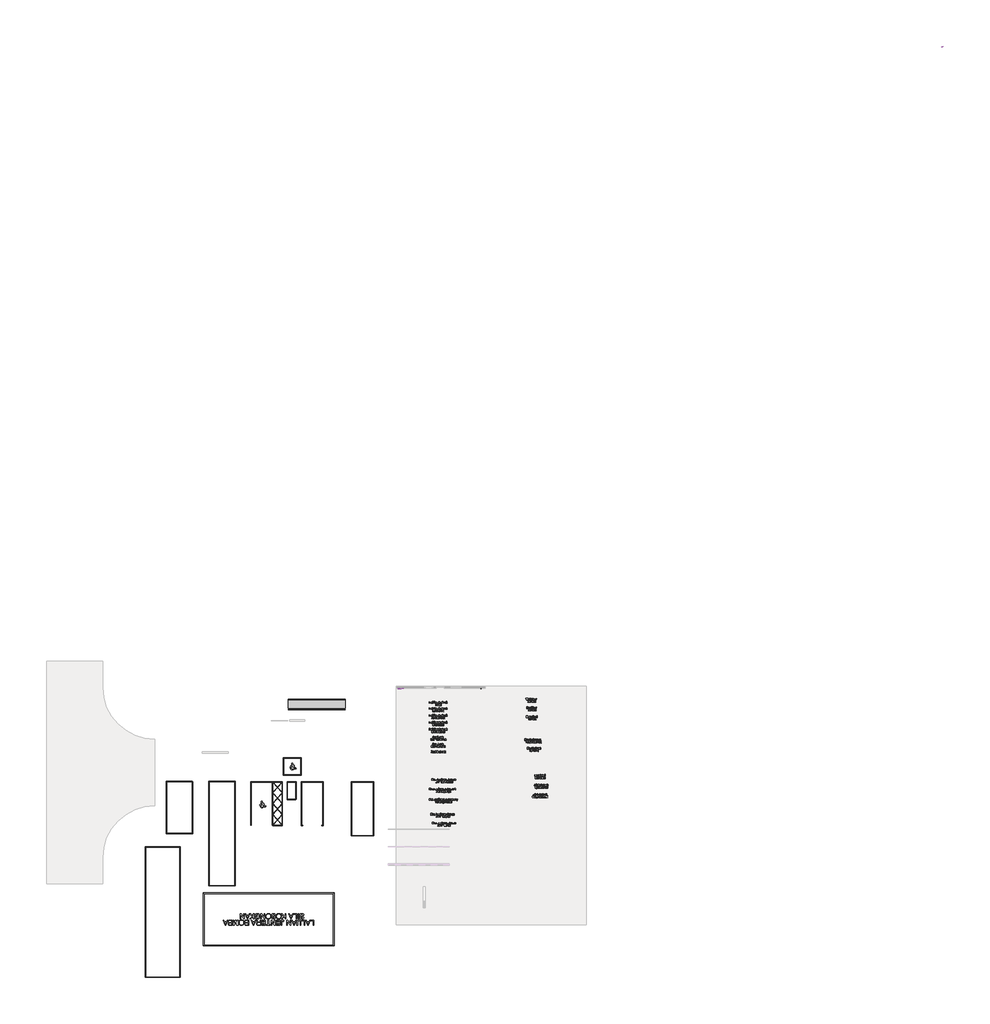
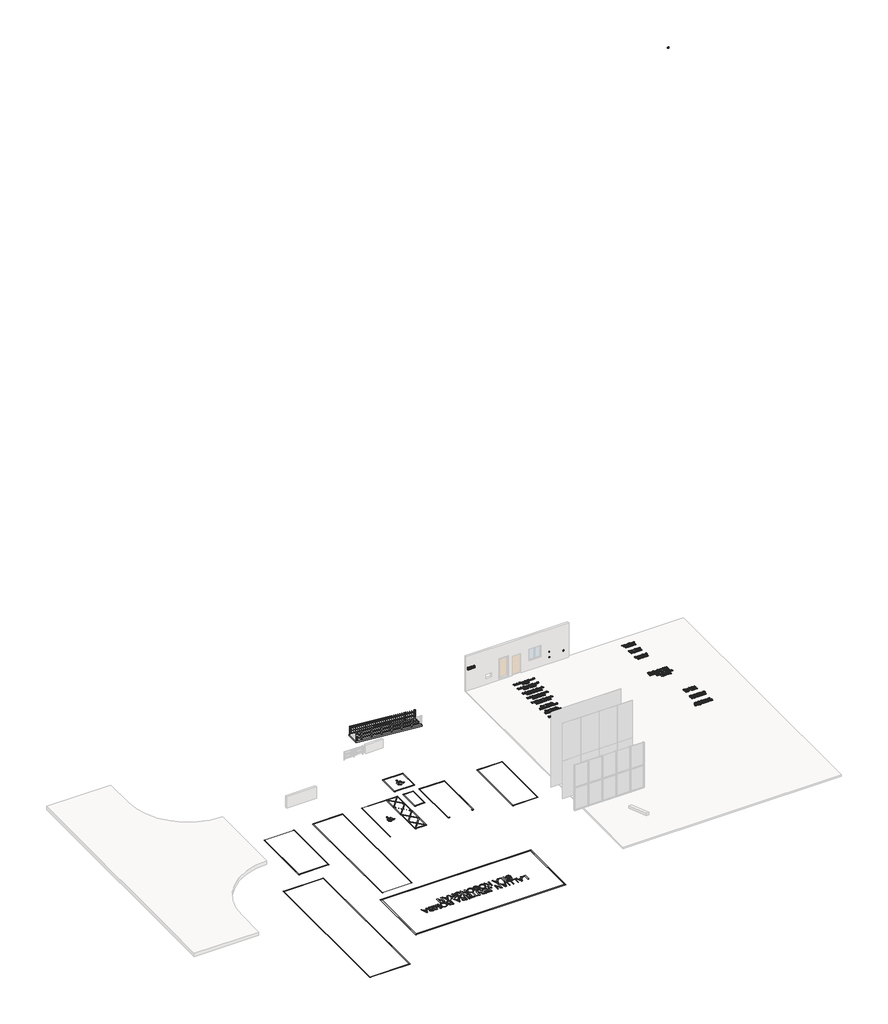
# One storey, part 3 of 3: 30 proxies, 3 alarms, 1 light fixture, 1 railing, 1 ramp.
"""IFC4 building model written with IfcOpenShell, lengths in millimetres."""

from ifc_helpers import new_model, si_unit, frame, origin, place, context, project, spatial, ellipse_curve, transform, mapped, element, save
from ifc_brep_helpers import plane_surface, cylinder_surface, advanced_brep
from components import break_glass_and_fire_alarm_bell_type_1_92468b06, fire_alarm_bell_diameter_150_d7b28a5b, pull_station_manual_84165f4a, generic_models_6ec18312, generic_models_11812b9f, generic_models_76fe117e, generic_models_7050a683, generic_models_4d7ac0fc, parking_627ed973, generic_models_9ae01eea, generic_models_8ed49101, generic_models_a3a4bf36, generic_models_a72e6efc, generic_models_cca2efae, generic_models_6b0d4a80, generic_models_324ab79a, generic_models_37252d37, proxy_6000_x_15000mm_90_deg_22f1d21b, bus_park_space_eeb452dd, car_park_space_parallel_parallel_pjc_2500x6200_3ebe62c2, car_park_space_oku_3797e2ba, large_4000x15000_39c9a88d, marker_dry_riser_distance_dry_riser_line_da1380dd, marker_fire_appliance_access_road_length_faa_length_line_315c61b4, marker_fire_appliance_access_road_width_faa_width_line_8debdb87, marker_fire_appliance_access_turning_radius_faa_turning_acc526ec, marker_fire_appliance_access_to_building_edge_faa_to_9c28d8f7, marker_fire_hydrant_spacing_5b3d75b8, marker_hose_reel_distance_hose_reel_line_1106418b, marker_wet_riser_distance_wet_riser_line_4951238f, motor_park_space_motor_1000x2000_5e893e73, motor_park_space_oku_motor_2000x2000_8156fa24, parallel_2500x5000_aad23695, light_fixture_4e43e032, oku1_d2eb89d1

model = new_model("IFC4")

# Units and contexts
model_context = context("Model", 3, world=origin())
ifc_project = project(units=[si_unit("LENGTHUNIT", "METRE", prefix="MILLI")], contexts=[model_context])

# Site, building, storey
site = spatial("IfcSite", under=ifc_project)
building = spatial("IfcBuilding", under=site)
storey = spatial("IfcBuildingStorey", under=building, Name="00-NBeS SITE/FIRE APPLIANCE ACCESS LEVEL", Elevation=-300.0)

# Alarms
placement = place(None, origin())
break_glass_and_fire_alarm_bell_type_1_shape = break_glass_and_fire_alarm_bell_type_1_92468b06(model_context)
element("IfcAlarm", 1, ObjectType="Break Glass and Fire Alarm Bell : Type 1", at=placement, inside=storey, context=model_context, shape_type="MappedRepresentation", body=[
    mapped(break_glass_and_fire_alarm_bell_type_1_shape, transform((-64013.385919, -10525.881401, -1078.4055332), x_axis=(-1.0, 0.0, 0.0), y_axis=(0.0, -1.0, 0.0), z_axis=(0.0, 0.0, 1.0))),
])
fire_alarm_bell_diameter_150_shape = fire_alarm_bell_diameter_150_d7b28a5b(model_context)
element("IfcAlarm", 2, ObjectType="Fire Alarm Bell : Diameter 150", at=placement, inside=storey, context=model_context, shape_type="MappedRepresentation", body=[
    mapped(fire_alarm_bell_diameter_150_shape, transform((-9520.4104892, 63304.171997, 1056.6659449), x_axis=(1.0, 0.0, 0.0), y_axis=(0.0, 0.0, 1.0), z_axis=(0.0, -1.0, 0.0))),
])
pull_station_manual_shape = pull_station_manual_84165f4a(model_context)
element("IfcAlarm", 3, ObjectType="Pull Station Manual : Addressable SPST", at=placement, inside=storey, context=model_context, shape_type="MappedRepresentation", body=[
    mapped(pull_station_manual_shape, transform((-62719.660919, -10625.881401, 624.3414459), x_axis=(1.0, 0.0, 0.0), y_axis=(0.0, 0.0, 1.0), z_axis=(0.0, -1.0, 0.0))),
])

# Proxies
generic_models_shape = generic_models_6ec18312(model_context)
element("IfcBuildingElementProxy", 4, Name="Marker-Dead End Exit Limit : Dead End Exit Limit Line", ObjectType="Marker-Dead End Exit Limit : Dead End Exit Limit Line", at=placement, inside=storey, context=model_context, shape_type="MappedRepresentation", body=[
    mapped(generic_models_shape, transform((-60441.1150746, -20830.1920685, 300.0), x_axis=(1.0, 0.0, 0.0), y_axis=(0.0, 1.0, 0.0), z_axis=(0.0, 0.0, 1.0))),
])
generic_models_2_shape = generic_models_11812b9f(model_context)
element("IfcBuildingElementProxy", 5, Name="Marker-Alt Exit Limit Sprinklered : Alt Exit Limit Sprinklered Line", ObjectType="Marker-Alt Exit Limit Sprinklered : Alt Exit Limit Sprinklered Line", at=placement, inside=storey, context=model_context, shape_type="MappedRepresentation", body=[
    mapped(generic_models_2_shape, transform((-60341.1150746, -21930.1920685, 300.0), x_axis=(1.0, 0.0, 0.0), y_axis=(0.0, 1.0, 0.0), z_axis=(0.0, 0.0, 1.0))),
])
generic_models_3_shape = generic_models_76fe117e(model_context)
element("IfcBuildingElementProxy", 6, Name="Marker-Alt Exit Limit Unsprinklered : Alt Exit Limit Unsprinklered Line", ObjectType="Marker-Alt Exit Limit Unsprinklered : Alt Exit Limit Unsprinklered Line", at=placement, inside=storey, context=model_context, shape_type="MappedRepresentation", body=[
    mapped(generic_models_3_shape, transform((-60441.1150746, -23030.1920685, 300.0), x_axis=(1.0, 0.0, 0.0), y_axis=(0.0, 1.0, 0.0), z_axis=(0.0, 0.0, 1.0))),
])
generic_models_4_shape = generic_models_7050a683(model_context)
element("IfcBuildingElementProxy", 7, Name="Marker-Fire Appliance Access Dead End : FAA Dead End Line", ObjectType="Marker-Fire Appliance Access Dead End : FAA Dead End Line", at=placement, inside=storey, context=model_context, shape_type="MappedRepresentation", body=[
    mapped(generic_models_4_shape, transform((-71292.9065262, -21313.5112618, 0.0), x_axis=(1.0, 0.0, 0.0), y_axis=(0.0, 1.0, 0.0), z_axis=(0.0, 0.0, 1.0))),
])
generic_models_5_shape = generic_models_4d7ac0fc(model_context)
element("IfcBuildingElementProxy", 8, Name="Marker-Fire Hydrant to Breeching Inlet : Fire Hydrant to Breeching Inlet", ObjectType="Marker-Fire Hydrant to Breeching Inlet : Fire Hydrant to Breeching Inlet", at=placement, inside=storey, context=model_context, shape_type="MappedRepresentation", body=[
    mapped(generic_models_5_shape, transform((-61110.2715973, -16713.5112618, 0.0), x_axis=(1.0, 0.0, 0.0), y_axis=(0.0, 1.0, 0.0), z_axis=(0.0, 0.0, 1.0))),
])
parking_shape = parking_627ed973(model_context)
element("IfcBuildingElementProxy", 9, Name="Lorry_Park_Space-Small : Smal 3000x6000", ObjectType="Lorry_Park_Space-Small : Smal 3000x6000", at=placement, inside=storey, context=model_context, shape_type="MappedRepresentation", body=[
    mapped(parking_shape, transform((-98940.1676817, -21395.0709799, -300.0), x_axis=(1.0, 0.0, 0.0), y_axis=(0.0, 1.0, 0.0), z_axis=(0.0, 0.0, 1.0))),
])
generic_models_6_shape = generic_models_9ae01eea(model_context)
element("IfcBuildingElementProxy", 10, Name="Marker-Setback Bldg Distance : Setback-Building-Front", ObjectType="Marker-Setback Bldg Distance : Setback-Building-Front", at=placement, inside=storey, context=model_context, shape_type="MappedRepresentation", body=[
    mapped(generic_models_6_shape, transform((-71466.2123858, -12425.881401, 0.0), x_axis=(1.0, 0.0, 0.0), y_axis=(0.0, 1.0, 0.0), z_axis=(0.0, 0.0, 1.0))),
])
generic_models_7_shape = generic_models_8ed49101(model_context)
element("IfcBuildingElementProxy", 11, Name="Marker-Setback Bldg Distance : Setback-Building-Rear Road", ObjectType="Marker-Setback Bldg Distance : Setback-Building-Rear Road", at=placement, inside=storey, context=model_context, shape_type="MappedRepresentation", body=[
    mapped(generic_models_7_shape, transform((-71466.2123858, -13125.881401, 0.0), x_axis=(1.0, 0.0, 0.0), y_axis=(0.0, 1.0, 0.0), z_axis=(0.0, 0.0, 1.0))),
])
generic_models_8_shape = generic_models_a3a4bf36(model_context)
element("IfcBuildingElementProxy", 12, Name="Marker-Setback Bldg Distance : Setback-Building-Rear Shared", ObjectType="Marker-Setback Bldg Distance : Setback-Building-Rear Shared", at=placement, inside=storey, context=model_context, shape_type="MappedRepresentation", body=[
    mapped(generic_models_8_shape, transform((-71466.2123858, -13925.881401, 0.0), x_axis=(1.0, 0.0, 0.0), y_axis=(0.0, 1.0, 0.0), z_axis=(0.0, 0.0, 1.0))),
])
generic_models_9_shape = generic_models_a72e6efc(model_context)
element("IfcBuildingElementProxy", 13, Name="Marker-Setback Bldg Distance : Setback-Building-Side Road", ObjectType="Marker-Setback Bldg Distance : Setback-Building-Side Road", at=placement, inside=storey, context=model_context, shape_type="MappedRepresentation", body=[
    mapped(generic_models_9_shape, transform((-71466.2123858, -14725.881401, 0.0), x_axis=(1.0, 0.0, 0.0), y_axis=(0.0, 1.0, 0.0), z_axis=(0.0, 0.0, 1.0))),
])
generic_models_10_shape = generic_models_cca2efae(model_context)
element("IfcBuildingElementProxy", 14, Name="Marker-Setback Bldg Distance : Setback-Car Porch-Front", ObjectType="Marker-Setback Bldg Distance : Setback-Car Porch-Front", at=placement, inside=storey, context=model_context, shape_type="MappedRepresentation", body=[
    mapped(generic_models_10_shape, transform((-71466.2123858, -16425.881401, 0.0), x_axis=(1.0, 0.0, 0.0), y_axis=(0.0, 1.0, 0.0), z_axis=(0.0, 0.0, 1.0))),
])
generic_models_11_shape = generic_models_6b0d4a80(model_context)
element("IfcBuildingElementProxy", 15, Name="Marker-Setback Bldg Distance : Setback-Car Porch-Side", ObjectType="Marker-Setback Bldg Distance : Setback-Car Porch-Side", at=placement, inside=storey, context=model_context, shape_type="MappedRepresentation", body=[
    mapped(generic_models_11_shape, transform((-71466.2123858, -17215.3933085, 0.0), x_axis=(1.0, 0.0, 0.0), y_axis=(0.0, 1.0, 0.0), z_axis=(0.0, 0.0, 1.0))),
])
generic_models_12_shape = generic_models_324ab79a(model_context)
element("IfcBuildingElementProxy", 16, Name="Marker-Setback Bldg Distance : Setback-Roof", ObjectType="Marker-Setback Bldg Distance : Setback-Roof", at=placement, inside=storey, context=model_context, shape_type="MappedRepresentation", body=[
    mapped(generic_models_12_shape, transform((-71466.2123858, -18104.905216, 0.0), x_axis=(1.0, 0.0, 0.0), y_axis=(0.0, 1.0, 0.0), z_axis=(0.0, 0.0, 1.0))),
])
generic_models_13_shape = generic_models_37252d37(model_context)
element("IfcBuildingElementProxy", 17, Name="Marker-Setback Bldg Distance : Setback-Building-Side Shared", ObjectType="Marker-Setback Bldg Distance : Setback-Building-Side Shared", at=placement, inside=storey, context=model_context, shape_type="MappedRepresentation", body=[
    mapped(generic_models_13_shape, transform((-71466.2123858, -15525.881401, 0.0), x_axis=(1.0, 0.0, 0.0), y_axis=(0.0, 1.0, 0.0), z_axis=(0.0, 0.0, 1.0))),
])
proxy_6000_x_15000mm_90_deg_shape = proxy_6000_x_15000mm_90_deg_22f1d21b(model_context)
element("IfcBuildingElementProxy", 18, Name="FAPS-Perpendicular : 6000 x 15000mm - 90 deg", ObjectType="FAPS-Perpendicular : 6000 x 15000mm - 90 deg", at=placement, inside=storey, context=model_context, shape_type="MappedRepresentation", body=[
    mapped(proxy_6000_x_15000mm_90_deg_shape, transform((-94657.3359767, -40282.2467088, -300.0), x_axis=(0.0, 1.0, 0.0), y_axis=(-1.0, 0.0, 0.0), z_axis=(0.0, 0.0, 1.0))),
])
bus_park_space_shape = bus_park_space_eeb452dd(model_context)
element("IfcBuildingElementProxy", 19, Name="Bus_Park_Space : Perpendicular 3000x12000", ObjectType="Bus_Park_Space : Perpendicular 3000x12000", at=placement, inside=storey, context=model_context, shape_type="MappedRepresentation", body=[
    mapped(bus_park_space_shape, transform((-94040.1676817, -21395.0709799, -300.0), x_axis=(1.0, 0.0, 0.0), y_axis=(0.0, 1.0, 0.0), z_axis=(0.0, 0.0, 1.0))),
])
car_park_space_parallel_parallel_pjc_2500x6200_shape = car_park_space_parallel_parallel_pjc_2500x6200_3ebe62c2(model_context)
element("IfcBuildingElementProxy", 20, Name="Car_Park_Space-Parallel : Parallel-PJC 2500X6200", ObjectType="Car_Park_Space-Parallel : Parallel-PJC 2500X6200", at=placement, inside=storey, context=model_context, shape_type="MappedRepresentation", body=[
    mapped(car_park_space_parallel_parallel_pjc_2500x6200_shape, transform((-77598.7330057, -21436.5011342, -300.0), x_axis=(1.0, 0.0, 0.0), y_axis=(0.0, 1.0, 0.0), z_axis=(0.0, 0.0, 1.0))),
])
car_park_space_oku_shape = car_park_space_oku_3797e2ba(model_context)
element("IfcBuildingElementProxy", 21, Name="Car_Park_Space_OKU : OKU-PJC 3600X5000", ObjectType="Car_Park_Space_OKU : OKU-PJC 3600X5000", at=placement, inside=storey, context=model_context, shape_type="MappedRepresentation", body=[
    mapped(car_park_space_oku_shape, transform((-89198.513091, -21436.5011342, -300.0), x_axis=(1.0, 0.0, 0.0), y_axis=(0.0, 1.0, 0.0), z_axis=(0.0, 0.0, 1.0))),
])
large_4000x15000_shape = large_4000x15000_39c9a88d(model_context)
element("IfcBuildingElementProxy", 22, Name="Lorry_Park_Space-Large : Large 4000x15000", ObjectType="Lorry_Park_Space-Large : Large 4000x15000", at=placement, inside=storey, context=model_context, shape_type="MappedRepresentation", body=[
    mapped(large_4000x15000_shape, transform((-101360.4100195, -28940.7856296, -300.0), x_axis=(1.0, 0.0, 0.0), y_axis=(0.0, 1.0, 0.0), z_axis=(0.0, 0.0, 1.0))),
])
marker_dry_riser_distance_dry_riser_line_shape = marker_dry_riser_distance_dry_riser_line_da1380dd(model_context)
element("IfcBuildingElementProxy", 23, Name="Marker-Dry Riser Distance : Dry Riser Line", ObjectType="Marker-Dry Riser Distance : Dry Riser Line", at=placement, inside=storey, context=model_context, shape_type="MappedRepresentation", body=[
    mapped(marker_dry_riser_distance_dry_riser_line_shape, transform((-60766.2123858, -13025.881401, 0.0), x_axis=(1.0, 0.0, 0.0), y_axis=(0.0, 1.0, 0.0), z_axis=(0.0, 0.0, 1.0))),
])
marker_fire_appliance_access_road_length_faa_length_line_shape = marker_fire_appliance_access_road_length_faa_length_line_315c61b4(model_context)
element("IfcBuildingElementProxy", 24, Name="Marker-Fire Appliance Access Road Length : FAA Length Line", ObjectType="Marker-Fire Appliance Access Road Length : FAA Length Line", at=placement, inside=storey, context=model_context, shape_type="MappedRepresentation", body=[
    mapped(marker_fire_appliance_access_road_length_faa_length_line_shape, transform((-71431.8139639, -25287.0744774, 0.0), x_axis=(1.0, 0.0, 0.0), y_axis=(0.0, 1.0, 0.0), z_axis=(0.0, 0.0, 1.0))),
])
marker_fire_appliance_access_road_width_faa_width_line_shape = marker_fire_appliance_access_road_width_faa_width_line_8debdb87(model_context)
element("IfcBuildingElementProxy", 25, Name="Marker-Fire Appliance Access Road Width : FAA Width Line", ObjectType="Marker-Fire Appliance Access Road Width : FAA Width Line", at=placement, inside=storey, context=model_context, shape_type="MappedRepresentation", body=[
    mapped(marker_fire_appliance_access_road_width_faa_width_line_shape, transform((-71350.4520355, -26304.0179042, 0.0), x_axis=(1.0, 0.0, 0.0), y_axis=(0.0, 1.0, 0.0), z_axis=(0.0, 0.0, 1.0))),
])
marker_fire_appliance_access_turning_radius_faa_turning_shape = marker_fire_appliance_access_turning_radius_faa_turning_acc526ec(model_context)
element("IfcBuildingElementProxy", 26, Name="Marker-Fire Appliance Access Turning Radius : FAA Turning Radius Line", ObjectType="Marker-Fire Appliance Access Turning Radius : FAA Turning Radius Line", at=placement, inside=storey, context=model_context, shape_type="MappedRepresentation", body=[
    mapped(marker_fire_appliance_access_turning_radius_faa_turning_shape, transform((-71466.3530013, -23587.0744774, 0.0), x_axis=(1.0, 0.0, 0.0), y_axis=(0.0, 1.0, 0.0), z_axis=(0.0, 0.0, 1.0))),
])
marker_fire_appliance_access_to_building_edge_faa_to_shape = marker_fire_appliance_access_to_building_edge_faa_to_9c28d8f7(model_context)
element("IfcBuildingElementProxy", 27, Name="Marker-Fire Appliance Access to Building Edge : FAA to Building Edge Line", ObjectType="Marker-Fire Appliance Access to Building Edge : FAA to Building Edge Line", at=placement, inside=storey, context=model_context, shape_type="MappedRepresentation", body=[
    mapped(marker_fire_appliance_access_to_building_edge_faa_to_shape, transform((-71431.8139639, -22393.6550722, 0.0), x_axis=(1.0, 0.0, 0.0), y_axis=(0.0, 1.0, 0.0), z_axis=(0.0, 0.0, 1.0))),
])
marker_fire_hydrant_spacing_shape = marker_fire_hydrant_spacing_5b3d75b8(model_context)
element("IfcBuildingElementProxy", 28, Name="Marker-Fire Hydrant Spacing : FIre Hydrant Line", ObjectType="Marker-Fire Hydrant Spacing : FIre Hydrant Line", at=placement, inside=storey, context=model_context, shape_type="MappedRepresentation", body=[
    mapped(marker_fire_hydrant_spacing_shape, transform((-61036.9121639, -17699.0839242, 300.0), x_axis=(1.0, 0.0, 0.0), y_axis=(0.0, 1.0, 0.0), z_axis=(0.0, 0.0, 1.0))),
])
marker_hose_reel_distance_hose_reel_line_shape = marker_hose_reel_distance_hose_reel_line_1106418b(model_context)
element("IfcBuildingElementProxy", 29, Name="Marker-Hose Reel Distance : Hose Reel Line", ObjectType="Marker-Hose Reel Distance : Hose Reel Line", at=placement, inside=storey, context=model_context, shape_type="MappedRepresentation", body=[
    mapped(marker_hose_reel_distance_hose_reel_line_shape, transform((-60790.72015, -14065.881401, 0.0), x_axis=(1.0, 0.0, 0.0), y_axis=(0.0, 1.0, 0.0), z_axis=(0.0, 0.0, 1.0))),
])
marker_wet_riser_distance_wet_riser_line_shape = marker_wet_riser_distance_wet_riser_line_4951238f(model_context)
element("IfcBuildingElementProxy", 30, Name="Marker-Wet Riser Distance : Wet Riser Line", ObjectType="Marker-Wet Riser Distance : Wet Riser Line", at=placement, inside=storey, context=model_context, shape_type="MappedRepresentation", body=[
    mapped(marker_wet_riser_distance_wet_riser_line_shape, transform((-60766.2123858, -12025.881401, 0.0), x_axis=(1.0, 0.0, 0.0), y_axis=(0.0, 1.0, 0.0), z_axis=(0.0, 0.0, 1.0))),
])
motor_park_space_motor_1000x2000_shape = motor_park_space_motor_1000x2000_5e893e73(model_context)
element("IfcBuildingElementProxy", 31, Name="Motor_Park_Space : Motor 1000X2000", ObjectType="Motor_Park_Space : Motor 1000X2000", at=placement, inside=storey, context=model_context, shape_type="MappedRepresentation", body=[
    mapped(motor_park_space_motor_1000x2000_shape, transform((-84023.544608, -21436.5011342, -300.0), x_axis=(-1.0, 0.0, 0.0), y_axis=(0.0, -1.0, 0.0), z_axis=(0.0, 0.0, 1.0))),
])
motor_park_space_oku_motor_2000x2000_shape = motor_park_space_oku_motor_2000x2000_8156fa24(model_context)
element("IfcBuildingElementProxy", 32, Name="Motor_Park_Space-OKU : Motor 2000X2000", ObjectType="Motor_Park_Space-OKU : Motor 2000X2000", at=placement, inside=storey, context=model_context, shape_type="MappedRepresentation", body=[
    mapped(motor_park_space_oku_motor_2000x2000_shape, transform((-85460.4100195, -18658.0387513, -300.0), x_axis=(1.0, 0.0, 0.0), y_axis=(0.0, 1.0, 0.0), z_axis=(0.0, 0.0, 1.0))),
])
parallel_2500x5000_shape = parallel_2500x5000_aad23695(model_context)
element("IfcBuildingElementProxy", 33, Name="Car_Park_Space-Perpendicular : Parallel 2500X5000", ObjectType="Car_Park_Space-Perpendicular : Parallel 2500X5000", at=placement, inside=storey, context=model_context, shape_type="MappedRepresentation", body=[
    mapped(parallel_2500x5000_shape, transform((-83398.7330057, -21440.7856296, -300.0), x_axis=(1.0, 0.0, 0.0), y_axis=(0.0, 1.0, 0.0), z_axis=(0.0, 0.0, 1.0))),
])

# Light fixture
light_fixture_shape = light_fixture_4e43e032(model_context)
element("IfcLightFixture", 34, ObjectType="Keluar Sign LED : Keluar Sign LED", at=placement, inside=storey, context=model_context, shape_type="MappedRepresentation", body=[
    mapped(light_fixture_shape, transform((-71853.385919, -10525.881401, -262.5), x_axis=(-1.0, 0.0, 0.0), y_axis=(0.0, -1.0, 0.0), z_axis=(0.0, 0.0, 1.0))),
])

# Railing
element("IfcRailing", 35, ObjectType="900mm Pipe", at=placement, inside=storey, context=model_context, shape_type="AdvancedBrep", body=[
    advanced_brep(
    [(-78318.4618294, -11920.679374, 579.9306757), (-78318.4618294, -11960.679374, 579.9306757), (-84918.4618294, -11920.679374, 1129.9306757), (-84918.4618294, -11960.679374, 1129.9306757)],
    [
        (0, 1, ellipse_curve(frame((-78318.4618294, -11940.679374, 579.9306757), z_axis=(1.0, 0.0, 0.0), x_axis=(0.0, 0.0, -1.0)), 20.0693243, 20.0)),
        (1, 0, ellipse_curve(frame((-78318.4618294, -11940.679374, 579.9306757), z_axis=(1.0, 0.0, 0.0), x_axis=(0.0, 0.0, -1.0)), 20.0693243, 20.0)),
        (2, 3, ellipse_curve(frame((-84918.4618294, -11940.679374, 1129.9306757), z_axis=(-1.0, 0.0, 0.0), x_axis=(0.0, 0.0, -1.0)), 20.0693243, 20.0)),
        (3, 2, ellipse_curve(frame((-84918.4618294, -11940.679374, 1129.9306757), z_axis=(-1.0, 0.0, 0.0), x_axis=(0.0, 0.0, -1.0)), 20.0693243, 20.0)),
        (0, 2),
        (3, 1),
    ],
    [
        plane_surface(frame((-78318.4618294, -11940.679374, 600.0), z_axis=(1.0, 0.0, 0.0), x_axis=(0.0, -1.0, 0.0))),
        plane_surface(frame((-84918.4618294, -11940.679374, 1150.0), z_axis=(-1.0, 0.0, 0.0), x_axis=(0.0, -1.0, 0.0))),
        cylinder_surface(frame((-78320.122739, -11940.679374, 580.0690848), z_axis=(0.9965457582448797, 0.0, -0.08304547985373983), x_axis=(0.0, -1.0, 0.0)), 20.0),
    ],
    [
        (0, [[1, 2]]),
        (1, [[3, 4]]),
        (2, [[-1, 5, -4, 6]]),
        (2, [[-2, -6, -3, -5]]),
    ],
),
    advanced_brep(
    [(-78318.4618294, -11925.679374, 459.9480068), (-78318.4618294, -11955.679374, 459.9480068), (-84918.4618294, -11925.679374, 1009.9480068), (-84918.4618294, -11955.679374, 1009.9480068)],
    [
        (0, 1, ellipse_curve(frame((-78318.4618294, -11940.679374, 459.9480068), z_axis=(1.0, 0.0, 0.0), x_axis=(0.0, 0.0, -1.0)), 15.0519932, 15.0)),
        (1, 0, ellipse_curve(frame((-78318.4618294, -11940.679374, 459.9480068), z_axis=(1.0, 0.0, 0.0), x_axis=(0.0, 0.0, -1.0)), 15.0519932, 15.0)),
        (2, 3, ellipse_curve(frame((-84918.4618294, -11940.679374, 1009.9480068), z_axis=(-1.0, 0.0, 0.0), x_axis=(0.0, 0.0, -1.0)), 15.0519932, 15.0)),
        (3, 2, ellipse_curve(frame((-84918.4618294, -11940.679374, 1009.9480068), z_axis=(-1.0, 0.0, 0.0), x_axis=(0.0, 0.0, -1.0)), 15.0519932, 15.0)),
        (0, 2),
        (3, 1),
    ],
    [
        plane_surface(frame((-78318.4618294, -11940.679374, 475.0), z_axis=(1.0, 0.0, 0.0), x_axis=(0.0, -1.0, 0.0))),
        plane_surface(frame((-84918.4618294, -11940.679374, 1025.0), z_axis=(-1.0, 0.0, 0.0), x_axis=(0.0, -1.0, 0.0))),
        cylinder_surface(frame((-78319.7075116, -11940.679374, 460.0518136), z_axis=(0.9965457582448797, 0.0, -0.08304547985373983), x_axis=(0.0, -1.0, 0.0)), 15.0),
    ],
    [
        (0, [[1, 2]]),
        (1, [[3, 4]]),
        (2, [[-1, 5, -4, 6]]),
        (2, [[-2, -6, -3, -5]]),
    ],
),
    advanced_brep(
    [(-78318.4618294, -11925.679374, 334.9480068), (-78318.4618294, -11955.679374, 334.9480068), (-84918.4618294, -11925.679374, 884.9480068), (-84918.4618294, -11955.679374, 884.9480068)],
    [
        (0, 1, ellipse_curve(frame((-78318.4618294, -11940.679374, 334.9480068), z_axis=(1.0, 0.0, 0.0), x_axis=(0.0, 0.0, -1.0)), 15.0519932, 15.0)),
        (1, 0, ellipse_curve(frame((-78318.4618294, -11940.679374, 334.9480068), z_axis=(1.0, 0.0, 0.0), x_axis=(0.0, 0.0, -1.0)), 15.0519932, 15.0)),
        (2, 3, ellipse_curve(frame((-84918.4618294, -11940.679374, 884.9480068), z_axis=(-1.0, 0.0, 0.0), x_axis=(0.0, 0.0, -1.0)), 15.0519932, 15.0)),
        (3, 2, ellipse_curve(frame((-84918.4618294, -11940.679374, 884.9480068), z_axis=(-1.0, 0.0, 0.0), x_axis=(0.0, 0.0, -1.0)), 15.0519932, 15.0)),
        (0, 2),
        (3, 1),
    ],
    [
        plane_surface(frame((-78318.4618294, -11940.679374, 350.0), z_axis=(1.0, 0.0, 0.0), x_axis=(0.0, -1.0, 0.0))),
        plane_surface(frame((-84918.4618294, -11940.679374, 900.0), z_axis=(-1.0, 0.0, 0.0), x_axis=(0.0, -1.0, 0.0))),
        cylinder_surface(frame((-78319.7075116, -11940.679374, 335.0518136), z_axis=(0.9965457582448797, 0.0, -0.08304547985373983), x_axis=(0.0, -1.0, 0.0)), 15.0),
    ],
    [
        (0, [[1, 2]]),
        (1, [[3, 4]]),
        (2, [[-1, 5, -4, 6]]),
        (2, [[-2, -6, -3, -5]]),
    ],
),
    advanced_brep(
    [(-78318.4618294, -11925.679374, 209.9480068), (-78318.4618294, -11955.679374, 209.9480068), (-84918.4618294, -11925.679374, 759.9480068), (-84918.4618294, -11955.679374, 759.9480068)],
    [
        (0, 1, ellipse_curve(frame((-78318.4618294, -11940.679374, 209.9480068), z_axis=(1.0, 0.0, 0.0), x_axis=(0.0, 0.0, -1.0)), 15.0519932, 15.0)),
        (1, 0, ellipse_curve(frame((-78318.4618294, -11940.679374, 209.9480068), z_axis=(1.0, 0.0, 0.0), x_axis=(0.0, 0.0, -1.0)), 15.0519932, 15.0)),
        (2, 3, ellipse_curve(frame((-84918.4618294, -11940.679374, 759.9480068), z_axis=(-1.0, 0.0, 0.0), x_axis=(0.0, 0.0, -1.0)), 15.0519932, 15.0)),
        (3, 2, ellipse_curve(frame((-84918.4618294, -11940.679374, 759.9480068), z_axis=(-1.0, 0.0, 0.0), x_axis=(0.0, 0.0, -1.0)), 15.0519932, 15.0)),
        (0, 2),
        (3, 1),
    ],
    [
        plane_surface(frame((-78318.4618294, -11940.679374, 225.0), z_axis=(1.0, 0.0, 0.0), x_axis=(0.0, -1.0, 0.0))),
        plane_surface(frame((-84918.4618294, -11940.679374, 775.0), z_axis=(-1.0, 0.0, 0.0), x_axis=(0.0, -1.0, 0.0))),
        cylinder_surface(frame((-78319.7075116, -11940.679374, 210.0518136), z_axis=(0.9965457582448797, 0.0, -0.08304547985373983), x_axis=(0.0, -1.0, 0.0)), 15.0),
    ],
    [
        (0, [[1, 2]]),
        (1, [[3, 4]]),
        (2, [[-1, 5, -4, 6]]),
        (2, [[-2, -6, -3, -5]]),
    ],
),
    advanced_brep(
    [(-78318.4618294, -11925.679374, 84.9480068), (-78318.4618294, -11955.679374, 84.9480068), (-84918.4618294, -11925.679374, 634.9480068), (-84918.4618294, -11955.679374, 634.9480068)],
    [
        (0, 1, ellipse_curve(frame((-78318.4618294, -11940.679374, 84.9480068), z_axis=(1.0, 0.0, 0.0), x_axis=(0.0, 0.0, -1.0)), 15.0519932, 15.0)),
        (1, 0, ellipse_curve(frame((-78318.4618294, -11940.679374, 84.9480068), z_axis=(1.0, 0.0, 0.0), x_axis=(0.0, 0.0, -1.0)), 15.0519932, 15.0)),
        (2, 3, ellipse_curve(frame((-84918.4618294, -11940.679374, 634.9480068), z_axis=(-1.0, 0.0, 0.0), x_axis=(0.0, 0.0, -1.0)), 15.0519932, 15.0)),
        (3, 2, ellipse_curve(frame((-84918.4618294, -11940.679374, 634.9480068), z_axis=(-1.0, 0.0, 0.0), x_axis=(0.0, 0.0, -1.0)), 15.0519932, 15.0)),
        (0, 2),
        (3, 1),
    ],
    [
        plane_surface(frame((-78318.4618294, -11940.679374, 100.0), z_axis=(1.0, 0.0, 0.0), x_axis=(0.0, -1.0, 0.0))),
        plane_surface(frame((-84918.4618294, -11940.679374, 650.0), z_axis=(-1.0, 0.0, 0.0), x_axis=(0.0, -1.0, 0.0))),
        cylinder_surface(frame((-78319.7075116, -11940.679374, 85.0518136), z_axis=(0.9965457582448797, 0.0, -0.08304547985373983), x_axis=(0.0, -1.0, 0.0)), 15.0),
    ],
    [
        (0, [[1, 2]]),
        (1, [[3, 4]]),
        (2, [[-1, 5, -4, 6]]),
        (2, [[-2, -6, -3, -5]]),
    ],
),
    advanced_brep(
    [(-78318.4618294, -11925.679374, -40.0519932), (-78318.4618294, -11955.679374, -40.0519932), (-84918.4618294, -11925.679374, 509.9480068), (-84918.4618294, -11955.679374, 509.9480068)],
    [
        (0, 1, ellipse_curve(frame((-78318.4618294, -11940.679374, -40.0519932), z_axis=(1.0, 0.0, 0.0), x_axis=(0.0, 0.0, -1.0)), 15.0519932, 15.0)),
        (1, 0, ellipse_curve(frame((-78318.4618294, -11940.679374, -40.0519932), z_axis=(1.0, 0.0, 0.0), x_axis=(0.0, 0.0, -1.0)), 15.0519932, 15.0)),
        (2, 3, ellipse_curve(frame((-84918.4618294, -11940.679374, 509.9480068), z_axis=(-1.0, 0.0, 0.0), x_axis=(0.0, 0.0, -1.0)), 15.0519932, 15.0)),
        (3, 2, ellipse_curve(frame((-84918.4618294, -11940.679374, 509.9480068), z_axis=(-1.0, 0.0, 0.0), x_axis=(0.0, 0.0, -1.0)), 15.0519932, 15.0)),
        (0, 2),
        (3, 1),
    ],
    [
        plane_surface(frame((-78318.4618294, -11940.679374, -25.0), z_axis=(1.0, 0.0, 0.0), x_axis=(0.0, -1.0, 0.0))),
        plane_surface(frame((-84918.4618294, -11940.679374, 525.0), z_axis=(-1.0, 0.0, 0.0), x_axis=(0.0, -1.0, 0.0))),
        cylinder_surface(frame((-78319.7075116, -11940.679374, -39.9481864), z_axis=(0.9965457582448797, 0.0, -0.08304547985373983), x_axis=(0.0, -1.0, 0.0)), 15.0),
    ],
    [
        (0, [[1, 2]]),
        (1, [[3, 4]]),
        (2, [[-1, 5, -4, 6]]),
        (2, [[-2, -6, -3, -5]]),
    ],
),
    advanced_brep(
    [(-78318.4618294, -11925.679374, -165.0519932), (-78318.4618294, -11955.679374, -165.0519932), (-84918.4618294, -11925.679374, 384.9480068), (-84918.4618294, -11955.679374, 384.9480068)],
    [
        (0, 1, ellipse_curve(frame((-78318.4618294, -11940.679374, -165.0519932), z_axis=(1.0, 0.0, 0.0), x_axis=(0.0, 0.0, -1.0)), 15.0519932, 15.0)),
        (1, 0, ellipse_curve(frame((-78318.4618294, -11940.679374, -165.0519932), z_axis=(1.0, 0.0, 0.0), x_axis=(0.0, 0.0, -1.0)), 15.0519932, 15.0)),
        (2, 3, ellipse_curve(frame((-84918.4618294, -11940.679374, 384.9480068), z_axis=(-1.0, 0.0, 0.0), x_axis=(0.0, 0.0, -1.0)), 15.0519932, 15.0)),
        (3, 2, ellipse_curve(frame((-84918.4618294, -11940.679374, 384.9480068), z_axis=(-1.0, 0.0, 0.0), x_axis=(0.0, 0.0, -1.0)), 15.0519932, 15.0)),
        (0, 2),
        (3, 1),
    ],
    [
        plane_surface(frame((-78318.4618294, -11940.679374, -150.0), z_axis=(1.0, 0.0, 0.0), x_axis=(0.0, -1.0, 0.0))),
        plane_surface(frame((-84918.4618294, -11940.679374, 400.0), z_axis=(-1.0, 0.0, 0.0), x_axis=(0.0, -1.0, 0.0))),
        cylinder_surface(frame((-78319.7075116, -11940.679374, -164.9481864), z_axis=(0.9965457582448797, 0.0, -0.08304547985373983), x_axis=(0.0, -1.0, 0.0)), 15.0),
    ],
    [
        (0, [[1, 2]]),
        (1, [[3, 4]]),
        (2, [[-1, 5, -4, 6]]),
        (2, [[-2, -6, -3, -5]]),
    ],
),
    advanced_brep(
    [(-84318.4618294, -11953.179374, 1059.8613514), (-84318.4618294, -11928.179374, 1059.8613514), (-84318.4618294, -11928.179374, 200.0), (-84318.4618294, -11953.179374, 200.0)],
    [
        (0, 1, ellipse_curve(frame((-84318.4618294, -11940.679374, 1059.8613514), z_axis=(-0.08304547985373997, 0.0, -0.9965457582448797), x_axis=(-0.9965457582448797, 0.0, 0.0830454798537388)), 12.5433277, 12.5)),
        (1, 2),
        (2, 3, ellipse_curve(frame((-84318.4618294, -11940.679374, 200.0), z_axis=(0.08304547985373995, 0.0, 0.9965457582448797), x_axis=(-0.9965457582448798, 0.0, 0.08304547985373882)), 12.5433277, 12.5)),
        (3, 0),
        (3, 2, ellipse_curve(frame((-84318.4618294, -11940.679374, 200.0), z_axis=(0.08304547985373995, 0.0, 0.9965457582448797), x_axis=(-0.9965457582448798, 0.0, 0.08304547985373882)), 12.5433277, 12.5)),
        (1, 0, ellipse_curve(frame((-84318.4618294, -11940.679374, 1059.8613514), z_axis=(-0.08304547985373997, 0.0, -0.9965457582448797), x_axis=(-0.9965457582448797, 0.0, 0.0830454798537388)), 12.5433277, 12.5)),
    ],
    [
        cylinder_surface(frame((-84318.4618294, -11940.679374, 100.0), z_axis=(0.0, 0.0, 1.0), x_axis=(0.0, 1.0, 0.0)), 12.5),
        plane_surface(frame((-84343.4618294, -11915.679374, 1061.9446847), z_axis=(0.08304547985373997, 0.0, 0.9965457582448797), x_axis=(0.0, -1.0, 0.0))),
        plane_surface(frame((-84293.4618294, -11915.679374, 197.9166667), z_axis=(-0.08304547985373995, 0.0, -0.9965457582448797), x_axis=(0.0, -1.0, 0.0))),
    ],
    [
        (0, [[1, 2, 3, 4]]),
        (0, [[5, -2, 6, -4]]),
        (1, [[-6, -1]]),
        (2, [[-5, -3]]),
    ],
),
    advanced_brep(
    [(-83318.4618294, -11953.179374, 976.5280181), (-83318.4618294, -11928.179374, 976.5280181), (-83318.4618294, -11928.179374, 116.6666667), (-83318.4618294, -11953.179374, 116.6666667)],
    [
        (0, 1, ellipse_curve(frame((-83318.4618294, -11940.679374, 976.5280181), z_axis=(-0.08304547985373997, 0.0, -0.9965457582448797), x_axis=(-0.9965457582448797, 0.0, 0.0830454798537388)), 12.5433277, 12.5)),
        (1, 2),
        (2, 3, ellipse_curve(frame((-83318.4618294, -11940.679374, 116.6666667), z_axis=(0.08304547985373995, 0.0, 0.9965457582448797), x_axis=(-0.9965457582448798, 0.0, 0.08304547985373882)), 12.5433277, 12.5)),
        (3, 0),
        (3, 2, ellipse_curve(frame((-83318.4618294, -11940.679374, 116.6666667), z_axis=(0.08304547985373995, 0.0, 0.9965457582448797), x_axis=(-0.9965457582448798, 0.0, 0.08304547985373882)), 12.5433277, 12.5)),
        (1, 0, ellipse_curve(frame((-83318.4618294, -11940.679374, 976.5280181), z_axis=(-0.08304547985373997, 0.0, -0.9965457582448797), x_axis=(-0.9965457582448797, 0.0, 0.0830454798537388)), 12.5433277, 12.5)),
    ],
    [
        cylinder_surface(frame((-83318.4618294, -11940.679374, 16.6666667), z_axis=(0.0, 0.0, 1.0), x_axis=(0.0, 1.0, 0.0)), 12.5),
        plane_surface(frame((-83343.4618294, -11915.679374, 978.6113514), z_axis=(0.08304547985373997, 0.0, 0.9965457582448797), x_axis=(0.0, -1.0, 0.0))),
        plane_surface(frame((-83293.4618294, -11915.679374, 114.5833333), z_axis=(-0.08304547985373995, 0.0, -0.9965457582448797), x_axis=(0.0, -1.0, 0.0))),
    ],
    [
        (0, [[1, 2, 3, 4]]),
        (0, [[5, -2, 6, -4]]),
        (1, [[-6, -1]]),
        (2, [[-5, -3]]),
    ],
),
    advanced_brep(
    [(-82318.4618294, -11953.179374, 893.1946847), (-82318.4618294, -11928.179374, 893.1946847), (-82318.4618294, -11928.179374, 33.3333333), (-82318.4618294, -11953.179374, 33.3333333)],
    [
        (0, 1, ellipse_curve(frame((-82318.4618294, -11940.679374, 893.1946847), z_axis=(-0.08304547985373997, 0.0, -0.9965457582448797), x_axis=(-0.9965457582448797, 0.0, 0.0830454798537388)), 12.5433277, 12.5)),
        (1, 2),
        (2, 3, ellipse_curve(frame((-82318.4618294, -11940.679374, 33.3333333), z_axis=(0.08304547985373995, 0.0, 0.9965457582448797), x_axis=(-0.9965457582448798, 0.0, 0.08304547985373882)), 12.5433277, 12.5)),
        (3, 0),
        (3, 2, ellipse_curve(frame((-82318.4618294, -11940.679374, 33.3333333), z_axis=(0.08304547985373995, 0.0, 0.9965457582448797), x_axis=(-0.9965457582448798, 0.0, 0.08304547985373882)), 12.5433277, 12.5)),
        (1, 0, ellipse_curve(frame((-82318.4618294, -11940.679374, 893.1946847), z_axis=(-0.08304547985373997, 0.0, -0.9965457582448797), x_axis=(-0.9965457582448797, 0.0, 0.0830454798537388)), 12.5433277, 12.5)),
    ],
    [
        cylinder_surface(frame((-82318.4618294, -11940.679374, -66.6666667), z_axis=(0.0, 0.0, 1.0), x_axis=(0.0, 1.0, 0.0)), 12.5),
        plane_surface(frame((-82343.4618294, -11915.679374, 895.2780181), z_axis=(0.08304547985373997, 0.0, 0.9965457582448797), x_axis=(0.0, -1.0, 0.0))),
        plane_surface(frame((-82293.4618294, -11915.679374, 31.25), z_axis=(-0.08304547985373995, 0.0, -0.9965457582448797), x_axis=(0.0, -1.0, 0.0))),
    ],
    [
        (0, [[1, 2, 3, 4]]),
        (0, [[5, -2, 6, -4]]),
        (1, [[-6, -1]]),
        (2, [[-5, -3]]),
    ],
),
    advanced_brep(
    [(-81318.4618294, -11953.179374, 809.8613514), (-81318.4618294, -11928.179374, 809.8613514), (-81318.4618294, -11928.179374, -50.0), (-81318.4618294, -11953.179374, -50.0)],
    [
        (0, 1, ellipse_curve(frame((-81318.4618294, -11940.679374, 809.8613514), z_axis=(-0.08304547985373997, 0.0, -0.9965457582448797), x_axis=(-0.9965457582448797, 0.0, 0.0830454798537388)), 12.5433277, 12.5)),
        (1, 2),
        (2, 3, ellipse_curve(frame((-81318.4618294, -11940.679374, -50.0), z_axis=(0.08304547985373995, 0.0, 0.9965457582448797), x_axis=(-0.9965457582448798, 0.0, 0.08304547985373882)), 12.5433277, 12.5)),
        (3, 0),
        (3, 2, ellipse_curve(frame((-81318.4618294, -11940.679374, -50.0), z_axis=(0.08304547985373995, 0.0, 0.9965457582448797), x_axis=(-0.9965457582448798, 0.0, 0.08304547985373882)), 12.5433277, 12.5)),
        (1, 0, ellipse_curve(frame((-81318.4618294, -11940.679374, 809.8613514), z_axis=(-0.08304547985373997, 0.0, -0.9965457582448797), x_axis=(-0.9965457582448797, 0.0, 0.0830454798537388)), 12.5433277, 12.5)),
    ],
    [
        cylinder_surface(frame((-81318.4618294, -11940.679374, -150.0), z_axis=(0.0, 0.0, 1.0), x_axis=(0.0, 1.0, 0.0)), 12.5),
        plane_surface(frame((-81343.4618294, -11915.679374, 811.9446847), z_axis=(0.08304547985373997, 0.0, 0.9965457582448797), x_axis=(0.0, -1.0, 0.0))),
        plane_surface(frame((-81293.4618294, -11915.679374, -52.0833333), z_axis=(-0.08304547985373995, 0.0, -0.9965457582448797), x_axis=(0.0, -1.0, 0.0))),
    ],
    [
        (0, [[1, 2, 3, 4]]),
        (0, [[5, -2, 6, -4]]),
        (1, [[-6, -1]]),
        (2, [[-5, -3]]),
    ],
),
    advanced_brep(
    [(-80318.4618294, -11953.179374, 726.5280181), (-80318.4618294, -11928.179374, 726.5280181), (-80318.4618294, -11928.179374, -133.3333333), (-80318.4618294, -11953.179374, -133.3333333)],
    [
        (0, 1, ellipse_curve(frame((-80318.4618294, -11940.679374, 726.5280181), z_axis=(-0.08304547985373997, 0.0, -0.9965457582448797), x_axis=(-0.9965457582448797, 0.0, 0.0830454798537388)), 12.5433277, 12.5)),
        (1, 2),
        (2, 3, ellipse_curve(frame((-80318.4618294, -11940.679374, -133.3333333), z_axis=(0.08304547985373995, 0.0, 0.9965457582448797), x_axis=(-0.9965457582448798, 0.0, 0.08304547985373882)), 12.5433277, 12.5)),
        (3, 0),
        (3, 2, ellipse_curve(frame((-80318.4618294, -11940.679374, -133.3333333), z_axis=(0.08304547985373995, 0.0, 0.9965457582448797), x_axis=(-0.9965457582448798, 0.0, 0.08304547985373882)), 12.5433277, 12.5)),
        (1, 0, ellipse_curve(frame((-80318.4618294, -11940.679374, 726.5280181), z_axis=(-0.08304547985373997, 0.0, -0.9965457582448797), x_axis=(-0.9965457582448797, 0.0, 0.0830454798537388)), 12.5433277, 12.5)),
    ],
    [
        cylinder_surface(frame((-80318.4618294, -11940.679374, -233.3333333), z_axis=(0.0, 0.0, 1.0), x_axis=(0.0, 1.0, 0.0)), 12.5),
        plane_surface(frame((-80343.4618294, -11915.679374, 728.6113514), z_axis=(0.08304547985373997, 0.0, 0.9965457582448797), x_axis=(0.0, -1.0, 0.0))),
        plane_surface(frame((-80293.4618294, -11915.679374, -135.4166667), z_axis=(-0.08304547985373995, 0.0, -0.9965457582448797), x_axis=(0.0, -1.0, 0.0))),
    ],
    [
        (0, [[1, 2, 3, 4]]),
        (0, [[5, -2, 6, -4]]),
        (1, [[-6, -1]]),
        (2, [[-5, -3]]),
    ],
),
    advanced_brep(
    [(-79318.4618294, -11953.179374, 643.1946847), (-79318.4618294, -11928.179374, 643.1946847), (-79318.4618294, -11928.179374, -216.6666667), (-79318.4618294, -11953.179374, -216.6666667)],
    [
        (0, 1, ellipse_curve(frame((-79318.4618294, -11940.679374, 643.1946847), z_axis=(-0.08304547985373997, 0.0, -0.9965457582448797), x_axis=(-0.9965457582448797, 0.0, 0.0830454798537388)), 12.5433277, 12.5)),
        (1, 2),
        (2, 3, ellipse_curve(frame((-79318.4618294, -11940.679374, -216.6666667), z_axis=(0.08304547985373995, 0.0, 0.9965457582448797), x_axis=(-0.9965457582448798, 0.0, 0.08304547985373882)), 12.5433277, 12.5)),
        (3, 0),
        (3, 2, ellipse_curve(frame((-79318.4618294, -11940.679374, -216.6666667), z_axis=(0.08304547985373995, 0.0, 0.9965457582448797), x_axis=(-0.9965457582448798, 0.0, 0.08304547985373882)), 12.5433277, 12.5)),
        (1, 0, ellipse_curve(frame((-79318.4618294, -11940.679374, 643.1946847), z_axis=(-0.08304547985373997, 0.0, -0.9965457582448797), x_axis=(-0.9965457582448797, 0.0, 0.0830454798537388)), 12.5433277, 12.5)),
    ],
    [
        cylinder_surface(frame((-79318.4618294, -11940.679374, -316.6666667), z_axis=(0.0, 0.0, 1.0), x_axis=(0.0, 1.0, 0.0)), 12.5),
        plane_surface(frame((-79343.4618294, -11915.679374, 645.2780181), z_axis=(0.08304547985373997, 0.0, 0.9965457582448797), x_axis=(0.0, -1.0, 0.0))),
        plane_surface(frame((-79293.4618294, -11915.679374, -218.75), z_axis=(-0.08304547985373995, 0.0, -0.9965457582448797), x_axis=(0.0, -1.0, 0.0))),
    ],
    [
        (0, [[1, 2, 3, 4]]),
        (0, [[5, -2, 6, -4]]),
        (1, [[-6, -1]]),
        (2, [[-5, -3]]),
    ],
),
    advanced_brep(
    [(-84905.9618294, -11953.179374, 1108.8196847), (-84905.9618294, -11928.179374, 1108.8196847), (-84905.9618294, -11928.179374, 248.9583333), (-84905.9618294, -11953.179374, 248.9583333)],
    [
        (0, 1, ellipse_curve(frame((-84905.9618294, -11940.679374, 1108.8196847), z_axis=(-0.08304547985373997, 0.0, -0.9965457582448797), x_axis=(-0.9965457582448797, 0.0, 0.0830454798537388)), 12.5433277, 12.5)),
        (1, 2),
        (2, 3, ellipse_curve(frame((-84905.9618294, -11940.679374, 248.9583333), z_axis=(0.08304547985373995, 0.0, 0.9965457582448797), x_axis=(-0.9965457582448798, 0.0, 0.08304547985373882)), 12.5433277, 12.5)),
        (3, 0),
        (3, 2, ellipse_curve(frame((-84905.9618294, -11940.679374, 248.9583333), z_axis=(0.08304547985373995, 0.0, 0.9965457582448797), x_axis=(-0.9965457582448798, 0.0, 0.08304547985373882)), 12.5433277, 12.5)),
        (1, 0, ellipse_curve(frame((-84905.9618294, -11940.679374, 1108.8196847), z_axis=(-0.08304547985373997, 0.0, -0.9965457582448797), x_axis=(-0.9965457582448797, 0.0, 0.0830454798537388)), 12.5433277, 12.5)),
    ],
    [
        cylinder_surface(frame((-84905.9618294, -11940.679374, 148.9583333), z_axis=(0.0, 0.0, 1.0), x_axis=(0.0, 1.0, 0.0)), 12.5),
        plane_surface(frame((-84930.9618294, -11915.679374, 1110.9030181), z_axis=(0.08304547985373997, 0.0, 0.9965457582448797), x_axis=(0.0, -1.0, 0.0))),
        plane_surface(frame((-84880.9618294, -11915.679374, 246.875), z_axis=(-0.08304547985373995, 0.0, -0.9965457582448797), x_axis=(0.0, -1.0, 0.0))),
    ],
    [
        (0, [[1, 2, 3, 4]]),
        (0, [[5, -2, 6, -4]]),
        (1, [[-6, -1]]),
        (2, [[-5, -3]]),
    ],
),
    advanced_brep(
    [(-78330.9618294, -11953.179374, 560.9030181), (-78330.9618294, -11928.179374, 560.9030181), (-78330.9618294, -11928.179374, -298.9583333), (-78330.9618294, -11953.179374, -298.9583333)],
    [
        (0, 1, ellipse_curve(frame((-78330.9618294, -11940.679374, 560.9030181), z_axis=(-0.08304547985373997, 0.0, -0.9965457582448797), x_axis=(-0.9965457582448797, 0.0, 0.0830454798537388)), 12.5433277, 12.5)),
        (1, 2),
        (2, 3, ellipse_curve(frame((-78330.9618294, -11940.679374, -298.9583333), z_axis=(0.08304547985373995, 0.0, 0.9965457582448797), x_axis=(-0.9965457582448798, 0.0, 0.08304547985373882)), 12.5433277, 12.5)),
        (3, 0),
        (3, 2, ellipse_curve(frame((-78330.9618294, -11940.679374, -298.9583333), z_axis=(0.08304547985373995, 0.0, 0.9965457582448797), x_axis=(-0.9965457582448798, 0.0, 0.08304547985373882)), 12.5433277, 12.5)),
        (1, 0, ellipse_curve(frame((-78330.9618294, -11940.679374, 560.9030181), z_axis=(-0.08304547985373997, 0.0, -0.9965457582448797), x_axis=(-0.9965457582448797, 0.0, 0.0830454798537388)), 12.5433277, 12.5)),
    ],
    [
        cylinder_surface(frame((-78330.9618294, -11940.679374, -398.9583333), z_axis=(0.0, 0.0, 1.0), x_axis=(0.0, 1.0, 0.0)), 12.5),
        plane_surface(frame((-78355.9618294, -11915.679374, 562.9863514), z_axis=(0.08304547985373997, 0.0, 0.9965457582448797), x_axis=(0.0, -1.0, 0.0))),
        plane_surface(frame((-78305.9618294, -11915.679374, -301.0416667), z_axis=(-0.08304547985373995, 0.0, -0.9965457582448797), x_axis=(0.0, -1.0, 0.0))),
    ],
    [
        (0, [[1, 2, 3, 4]]),
        (0, [[5, -2, 6, -4]]),
        (1, [[-6, -1]]),
        (2, [[-5, -3]]),
    ],
),
])

# Ramp
oku1_shape = oku1_d2eb89d1(model_context)
element("IfcRamp", 36, ObjectType="OKU1", at=placement, inside=storey, context=model_context, shape_type="MappedRepresentation", body=[
    mapped(oku1_shape, transform((0.0, 0.0, 0.0), x_axis=(1.0, 0.0, 0.0), y_axis=(0.0, 1.0, 0.0), z_axis=(0.0, 0.0, 1.0))),
])

save(model, "model.ifc")
